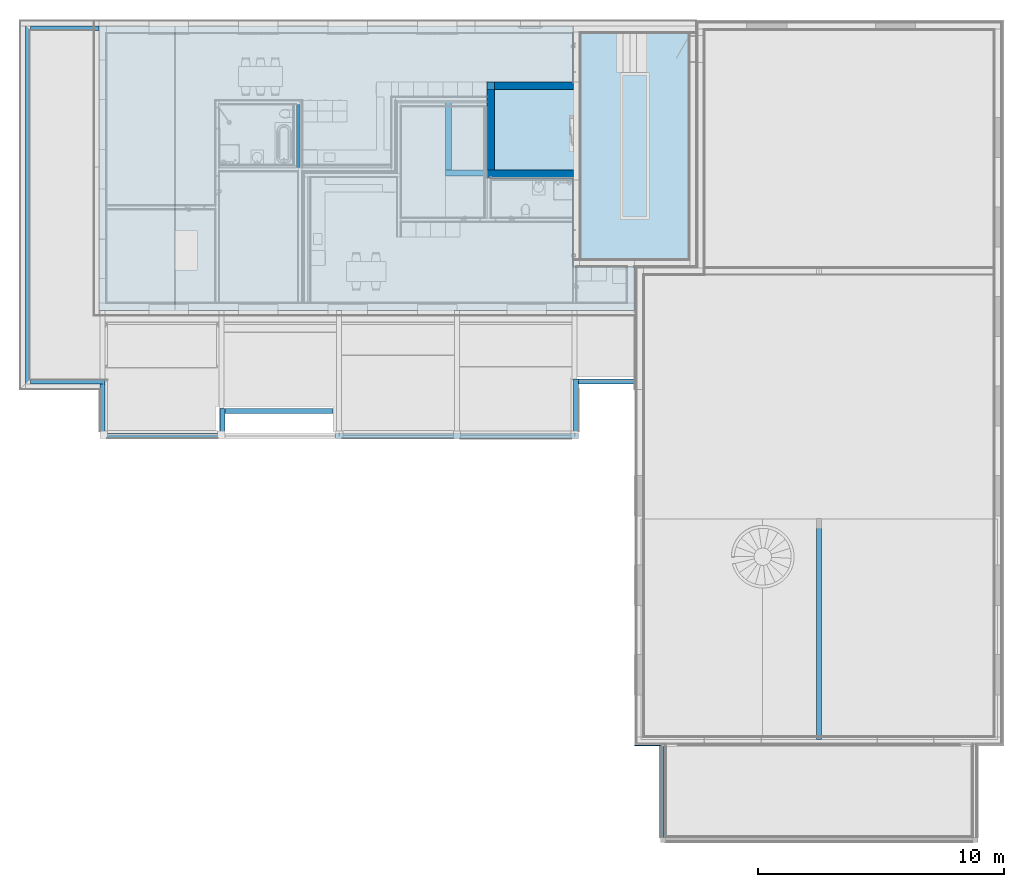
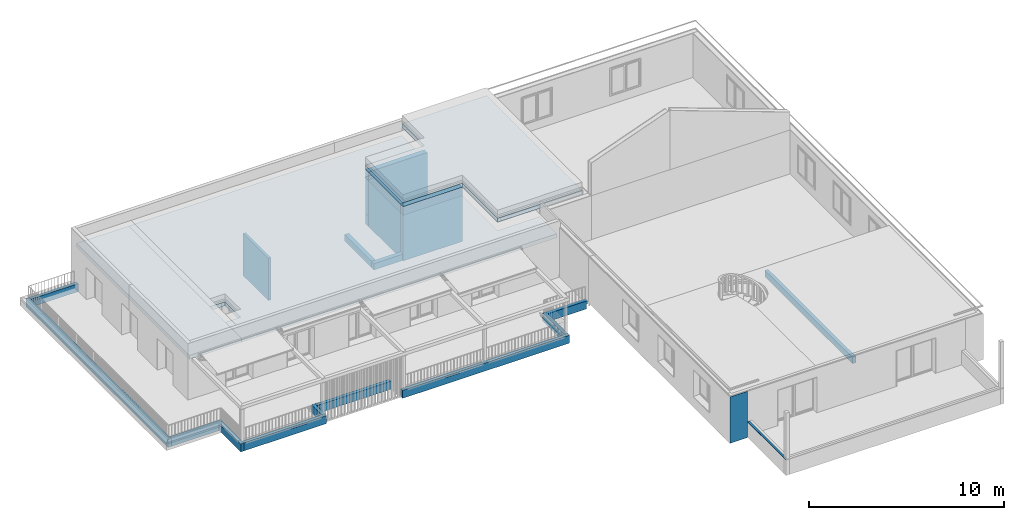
# One storey, part 2 of 36: 17 walls, 3 roofs, 2 building element parts, 1 beam, 2 elements without a shape of their own.
"""IFC4 building model written with IfcOpenShell, lengths in millimetres."""

from ifc_helpers import new_model, entity, si_unit, converted_unit, derived_unit, direction, frame, origin_with_axes, place, context, subcontext, project, spatial, polygons, material, constituent, constituent_set, type_object, element, aggregate, save


model = new_model("IFC4")

# Units and contexts
model_context = context("Model", 3, precision=0.01, world=origin_with_axes(), true_north=direction((0.0, 1.0)))
body_context = subcontext(model_context, "Body", "Model", "MODEL_VIEW")
ifc_project = project(units=[si_unit("LENGTHUNIT", "METRE", prefix="MILLI"), si_unit("AREAUNIT", "SQUARE_METRE"), si_unit("VOLUMEUNIT", "CUBIC_METRE"), converted_unit("PLANEANGLEUNIT", "DEGREE", entity("IfcPlaneAngleMeasure", 0.0174532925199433), si_unit("PLANEANGLEUNIT", "RADIAN"), dimensions=[0, 0, 0, 0, 0, 0, 0]), converted_unit("TIMEUNIT", "Year", entity("IfcTimeMeasure", 31557600.0), si_unit("TIMEUNIT", "SECOND"), dimensions=[0, 0, 1, 0, 0, 0, 0]), si_unit("MASSUNIT", "GRAM", prefix="KILO"), si_unit("THERMODYNAMICTEMPERATUREUNIT", "DEGREE_CELSIUS"), si_unit("LUMINOUSINTENSITYUNIT", "LUMEN"), si_unit("ENERGYUNIT", "JOULE", prefix="MEGA"), derived_unit("THERMALCONDUCTANCEUNIT", [(si_unit("POWERUNIT", "WATT"), 1), (si_unit("LENGTHUNIT", "METRE"), -1), (si_unit("THERMODYNAMICTEMPERATUREUNIT", "KELVIN"), -1)]), derived_unit("SPECIFICHEATCAPACITYUNIT", [(si_unit("ENERGYUNIT", "JOULE"), 1), (si_unit("MASSUNIT", "GRAM", prefix="KILO"), -1), (si_unit("THERMODYNAMICTEMPERATUREUNIT", "KELVIN"), -1)]), derived_unit("MASSDENSITYUNIT", [(si_unit("MASSUNIT", "GRAM", prefix="KILO"), 1), (si_unit("VOLUMEUNIT", "CUBIC_METRE"), -1)])], contexts=[model_context])

# Site, building, storey
site_placement = place(None, origin_with_axes())
site = spatial("IfcSite", under=ifc_project, at=site_placement, Name="Gelände", CompositionType="ELEMENT")
building_placement = place(site_placement, origin_with_axes())
building = spatial("IfcBuilding", under=site, at=building_placement, Name="Gebäude", CompositionType="ELEMENT")
storey_placement = place(building_placement, frame((0.0, 0.0, 8700.0), z_axis=(0.0, 0.0, 1.0), x_axis=(1.0, 0.0, 0.0)))
storey = spatial("IfcBuildingStorey", under=building, at=storey_placement, Name="Attika", CompositionType="ELEMENT", Elevation=8700.0)

# Beam
ifc_material_1 = material(Name="Massivholz")
beam_type = type_object("IfcBeamType", Name="Massivholz 200 x 400", PredefinedType="NOTDEFINED")
beam_placement = place(storey_placement, frame((25428.99744456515, 17689.67011252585, 3143.999896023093), z_axis=(0.0, 0.0, 1.0), x_axis=(-1.0, 0.0, 0.0)))
element("IfcBeam", 1, at=beam_placement, inside=storey, type_object=beam_type, material=ifc_material_1, Name="Unterzug-027", PredefinedType="NOTDEFINED", context=body_context, shape_type="Tessellation", body=[
    polygons([(100.0000000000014, 0.0, -400.0000000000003), (-100.0000000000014, 0.0, -400.0000000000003), (-100.0000000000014, 8993.072831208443, -400.0000000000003), (99.99999999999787, 8993.072831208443, -400.0000000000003), (100.0000000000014, 0.0, 0.0), (-100.0000000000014, 0.0, 0.0), (-100.0000000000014, 8993.072831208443, 0.0), (99.99999999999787, 8993.072831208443, 0.0)], [[[1, 2, 3, 4]], [[5, 6, 2, 1]], [[2, 6, 7, 3]], [[8, 4, 3, 7]], [[5, 1, 4, 8]], [[6, 5, 8, 7]]], closed=True),
])

# Walls
ifc_material_2 = material(Name="MW, Backstein, Sichtmauerwerk")
ifc_constituent_1 = constituent(ifc_material_2, Name="MW, Backstein, Sichtmauerwerk")
ifc_constituent_set_1 = constituent_set(constituents=[ifc_constituent_1], Name="Innenwand Typ 02")
wall_type_1 = type_object("IfcWallType", Name="Innenwand Typ 02 150", PredefinedType="NOTDEFINED")
wall_1_placement = place(storey_placement, frame((4165.773549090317, 34704.06370406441, 0.0), z_axis=(0.0, 0.0, 1.0), x_axis=(0.0, -1.0, 0.0)))
element("IfcWall", 2, at=wall_1_placement, inside=storey, type_object=wall_type_1, material=ifc_constituent_set_1, Name="Wand-015", PredefinedType="NOTDEFINED", context=body_context, shape_type="Tessellation", body=[
    polygons([(2741.466422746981, 150.0000000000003, 0.0), (2741.466422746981, 0.0, 0.0), (159.9999999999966, 0.0, 0.0), (159.9999999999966, 150.0000000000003, 0.0), (2741.466422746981, 150.0000000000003, 2649.999948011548), (2741.466422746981, 0.0, 2649.999948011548), (159.9999999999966, 0.0, 2649.999948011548), (159.9999999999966, 150.0000000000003, 2649.999948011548)], [[[1, 2, 3, 4]], [[2, 1, 5, 6]], [[2, 6, 7, 3]], [[8, 4, 3, 7]], [[5, 1, 4, 8]], [[6, 5, 8, 7]]], closed=True),
])
ifc_material_3 = material(Name="Beton bewehrt")
ifc_constituent_2 = constituent(ifc_material_3, Name="Beton bewehrt")
ifc_constituent_set_2 = constituent_set(constituents=[ifc_constituent_2], Name="Innenwand Typ 08")
wall_type_2 = type_object("IfcWallType", Name="Innenwand Typ 08 300", PredefinedType="NOTDEFINED")
wall_2_placement = place(storey_placement, frame((12228.99744477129, 35447.59728131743, -5.198845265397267e-05), z_axis=(0.0, 0.0, 1.0), x_axis=(0.0, -1.0, 0.0)))
element("IfcWall", 3, at=wall_2_placement, inside=storey, type_object=wall_type_2, material=ifc_constituent_set_2, Name="Wand-014", PredefinedType="NOTDEFINED", context=body_context, shape_type="Tessellation", body=[
    polygons([(299.9999999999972, 0.0, 0.0), (3574.999999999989, 0.0, 0.0), (3574.999999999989, -300.0000000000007, 0.0), (299.9999999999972, -300.0000000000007, 0.0), (299.9999999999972, 0.0, 3400.000051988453), (3574.999999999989, 0.0, 3400.000051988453), (3574.999999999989, -300.0000000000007, 3400.000051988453), (299.9999999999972, -299.9999999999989, 3400.000051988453)], [[[1, 2, 3, 4]], [[5, 6, 2, 1]], [[3, 2, 6, 7]], [[4, 3, 7, 8]], [[5, 1, 4, 8]], [[8, 7, 6, 5]]], closed=True),
])
ifc_constituent_3 = constituent(ifc_material_3, Name="Beton bewehrt")
ifc_constituent_set_3 = constituent_set(constituents=[ifc_constituent_3], Name="Innenwand Typ 08")
wall_3_placement = place(storey_placement, frame((11928.99744477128, 35447.59728131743, 0.0), z_axis=(0.0, 0.0, 1.0), x_axis=(1.0, 0.0, 0.0)))
element("IfcWall", 4, at=wall_3_placement, inside=storey, type_object=wall_type_2, material=ifc_constituent_set_3, Name="Wand-014", PredefinedType="NOTDEFINED", context=body_context, shape_type="Tessellation", body=[
    polygons([(0.0, 0.0, 0.0), (0.0, 0.0, 649.9999999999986), (300.0000000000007, 0.0, 649.9999999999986), (300.0000000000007, 0.0, 3400.0), (3500.0, 0.0, 3400.000000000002), (3500.0, 0.0, 0.0), (0.0, -299.9999999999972, 0.0), (0.0, -299.9999999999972, 649.9999999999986), (300.0000000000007, -299.9999999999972, 649.9999999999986), (300.0000000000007, -299.9999999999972, 3400.0), (3500.0, -299.9999999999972, 3400.000000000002), (3500.0, -299.9999999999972, 0.0)], [[[1, 2, 3, 4, 5, 6]], [[7, 8, 2, 1]], [[9, 3, 2, 8]], [[9, 10, 4, 3]], [[5, 4, 10, 11]], [[12, 6, 5, 11]], [[6, 12, 7, 1]], [[10, 9, 8, 7, 12, 11]]], closed=True),
])
ifc_constituent_4 = constituent(ifc_material_3, Name="Beton bewehrt")
ifc_constituent_set_4 = constituent_set(constituents=[ifc_constituent_4], Name="Innenwand Typ 08")
wall_4_placement = place(storey_placement, frame((11928.99744477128, 31572.59728131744, -5.198845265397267e-05), z_axis=(0.0, 0.0, 1.0), x_axis=(1.0, 0.0, 0.0)))
element("IfcWall", 5, at=wall_4_placement, inside=storey, type_object=wall_type_2, material=ifc_constituent_set_4, Name="Wand-014", PredefinedType="NOTDEFINED", context=body_context, shape_type="Tessellation", body=[
    polygons([(3500.0, 300.0000000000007, 3400.000051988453), (3500.0, 300.0000000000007, 0.0), (0.0, 300.0000000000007, 0.0), (0.0, 300.0000000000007, 3400.000051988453), (3500.0, 0.0, 3400.000051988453), (3500.0, 0.0, 0.0), (0.0, 0.0, 0.0), (0.0, 0.0, 3400.000051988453)], [[[1, 2, 3, 4]], [[1, 5, 6, 2]], [[2, 6, 7, 3]], [[7, 8, 4, 3]], [[5, 1, 4, 8]], [[5, 8, 7, 6]]], closed=True),
])
ifc_constituent_5 = constituent(ifc_material_3, Name="Beton bewehrt")
ifc_constituent_set_5 = constituent_set(constituents=[ifc_constituent_5], Name="Innenwand Typ 08")
wall_5_placement = place(storey_placement, frame((11928.99744477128, 35447.59728131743, 649.9999999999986), z_axis=(0.0, 0.0, 1.0), x_axis=(0.0, -1.0, 0.0)))
element("IfcWall", 6, at=wall_5_placement, inside=storey, type_object=wall_type_2, material=ifc_constituent_set_5, Name="Wand-014", PredefinedType="NOTDEFINED", context=body_context, shape_type="Tessellation", body=[
    polygons([(3574.999999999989, 299.9999999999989, 2750.000000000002), (3574.999999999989, 0.0, 2750.000000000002), (3574.999999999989, 0.0, 0.0), (3574.999999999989, 299.9999999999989, 0.0), (0.0, 0.0, 2750.000000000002), (0.0, 300.0000000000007, 2750.000000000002), (0.0, 0.0, 0.0), (0.0, 300.0000000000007, 0.0)], [[[1, 2, 3, 4]], [[5, 2, 1, 6]], [[7, 3, 2, 5]], [[8, 4, 3, 7]], [[1, 4, 8, 6]], [[8, 7, 5, 6]]], closed=True),
])
ifc_constituent_6 = constituent(ifc_material_3, Name="Beton bewehrt")
ifc_constituent_set_6 = constituent_set(constituents=[ifc_constituent_6], Name="Aussenwand Typ 07 - Brüstung")
wall_type_3 = type_object("IfcWallType", Name="Aussenwand Typ 07 - Brüstung 200", PredefinedType="NOTDEFINED")
wall_6_placement = place(storey_placement, frame((-6861.004181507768, 37737.5972813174, 0.0), z_axis=(0.0, 0.0, 1.0), x_axis=(0.0, -1.0, 0.0)))
element("IfcWall", 7, at=wall_6_placement, inside=storey, type_object=wall_type_3, material=ifc_constituent_set_6, Name="Wand-014", PredefinedType="NOTDEFINED", context=body_context, shape_type="Tessellation", body=[
    polygons([(187.7000840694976, 187.7000840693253, 500.0), (14392.30045643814, 187.7000840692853, 500.0), (14392.3004934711, 200.0000000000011, 500.0), (187.7000470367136, 200.0000000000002, 500.0), (187.6999606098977, 187.6999606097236, 402.526755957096), (14392.30057989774, 187.6999606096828, 402.526755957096), (14392.30057989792, 200.0000000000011, 402.526755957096), (14395.00062668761, 200.0000000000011, 402.526755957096), (14395.00054026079, 200.0000000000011, 499.9999994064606), (14580.00054054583, 200.0000000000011, 500.0), (14580.00054054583, 200.0000000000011, 0.0), (0.0, 200.0000000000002, 0.0), (0.0, 200.0000000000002, 500.0), (185.0000002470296, 200.0000000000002, 499.9999994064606), (184.9999138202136, 200.0000000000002, 402.526755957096), (187.6999606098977, 200.0000000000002, 402.526755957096), (184.9999138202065, 184.9999138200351, 402.526755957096), (14395.00062668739, 184.9999138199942, 402.526755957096), (14395.00054026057, 185.000000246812, 499.9999994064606), (185.0000002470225, 185.0000002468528, 499.9999994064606), (0.0, 0.0, 500.0), (14580.00054054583, 0.0, 500.0), (14580.00054054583, 0.0, 0.0), (0.0, 0.0, 0.0)], [[[1, 2, 3, 4]], [[5, 6, 2, 1]], [[6, 7, 3, 2]], [[7, 8, 9, 10, 11, 12, 13, 14, 15, 16, 4, 3]], [[16, 5, 1, 4]], [[17, 18, 8, 7, 6, 5, 16, 15]], [[19, 9, 8, 18]], [[10, 9, 19, 20, 14, 13, 21, 22]], [[22, 23, 11, 10]], [[12, 11, 23, 24]], [[21, 13, 12, 24]], [[14, 20, 17, 15]], [[20, 19, 18, 17]], [[24, 23, 22, 21]]], closed=True),
])
ifc_constituent_7 = constituent(ifc_material_3, Name="Beton bewehrt")
ifc_constituent_set_7 = constituent_set(constituents=[ifc_constituent_7], Name="Aussenwand Typ 07 - Brüstung")
wall_7_placement = place(storey_placement, frame((-6861.004181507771, 23157.59674077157, 0.0), z_axis=(0.0, 0.0, 1.0), x_axis=(1.0, 0.0, 0.0)))
element("IfcWall", 8, at=wall_7_placement, inside=storey, type_object=wall_type_3, material=ifc_constituent_set_7, Name="Wand-014", PredefinedType="NOTDEFINED", context=body_context, shape_type="Tessellation", body=[
    polygons([(200.0000000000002, 0.0, 500.0), (3205.170084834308, 0.0, 499.9999987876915), (3235.800000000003, 39.37021460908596, 499.9999987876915), (3235.800000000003, 185.0000002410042, 499.9999994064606), (200.0000000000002, 185.0000002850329, 499.9999994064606), (3235.800000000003, 0.0, 497.4732441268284), (3205.170084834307, 0.0, 497.4732436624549), (200.0000000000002, 0.0, 0.0), (3235.800000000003, 0.0, 0.0), (3235.800000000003, 39.37021460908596, 497.4732441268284), (3235.800000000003, 199.9999999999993, 0.0), (3235.800000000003, 199.9999999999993, 500.0), (3235.800000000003, 187.7000470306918, 500.0), (3235.800000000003, 187.6999606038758, 402.526755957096), (3235.800000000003, 184.9999138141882, 402.526755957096), (200.0000000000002, 184.999913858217, 402.526755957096), (200.0000000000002, 187.6999606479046, 402.526755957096), (200.0000000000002, 187.7000470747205, 500.0), (200.0000000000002, 199.9999999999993, 500.0), (200.0000000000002, 199.9999999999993, 0.0)], [[[1, 2, 3, 4, 5]], [[6, 7, 2, 1, 8, 9]], [[7, 10, 3, 2]], [[3, 10, 6, 9, 11, 12, 13, 14, 15, 4]], [[5, 4, 15, 16]], [[16, 17, 18, 19, 20, 8, 1, 5]], [[7, 6, 10]], [[20, 11, 9, 8]], [[19, 12, 11, 20]], [[19, 18, 13, 12]], [[17, 14, 13, 18]], [[16, 15, 14, 17]]], closed=True),
])
ifc_constituent_8 = constituent(ifc_material_3, Name="Beton bewehrt")
ifc_constituent_set_8 = constituent_set(constituents=[ifc_constituent_8], Name="Aussenwand Typ 07 - Brüstung")
wall_8_placement = place(storey_placement, frame((15637.99581849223, 23157.59674077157, 0.0), z_axis=(0.0, 0.0, 1.0), x_axis=(1.0, 0.0, 0.0)))
element("IfcWall", 9, at=wall_8_placement, inside=storey, type_object=wall_type_3, material=ifc_constituent_set_8, Name="Wand-015", PredefinedType="NOTDEFINED", context=body_context, shape_type="Tessellation", body=[
    polygons([(2362.001626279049, 199.9999999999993, 500.0), (2362.001626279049, 0.0, 500.0), (2362.001626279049, 0.0, 300.0000000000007), (2362.001626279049, 199.9999999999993, 300.0000000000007), (0.0, 199.9999999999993, 500.0), (0.0, 0.0, 500.0), (0.0, 0.0, 0.0), (2291.001626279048, 0.0, 0.0), (2291.001626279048, 0.0, 300.0000000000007), (2291.001626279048, 199.9999999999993, 300.0000000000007), (2291.001626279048, 199.9999999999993, 0.0), (0.0, 199.9999999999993, 0.0)], [[[1, 2, 3, 4]], [[5, 6, 2, 1]], [[7, 8, 9, 3, 2, 6]], [[3, 9, 10, 4]], [[1, 4, 10, 11, 12, 5]], [[6, 5, 12, 7]], [[7, 12, 11, 8]], [[9, 8, 11, 10]]], closed=True),
])
ifc_constituent_9 = constituent(ifc_material_3, Name="Beton bewehrt")
ifc_constituent_set_9 = constituent_set(constituents=[ifc_constituent_9], Name="Aussenwand Typ 07 - Brüstung")
wall_9_placement = place(storey_placement, frame((5756.395818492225, 20947.59674077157, 0.0), z_axis=(0.0, 0.0, 1.0), x_axis=(1.0, 0.0, 0.0)))
element("IfcWall", 10, at=wall_9_placement, inside=storey, type_object=wall_type_3, material=ifc_constituent_set_9, Name="Wand-014", PredefinedType="NOTDEFINED", context=body_context, shape_type="Tessellation", body=[
    polygons([(300.0000000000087, 199.9999999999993, 499.9999987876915), (300.0000000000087, 199.9999999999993, 497.4732441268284), (4790.800000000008, 199.9999999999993, 497.4732441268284), (4790.800000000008, 199.9999999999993, 499.9999987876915), (9881.600000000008, 199.9999999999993, 500.0), (9881.600000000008, 199.9999999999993, 0.0), (0.0, 199.9999999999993, 0.0), (0.0, 199.9999999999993, 500.0), (300.000000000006, 2.700173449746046, 400.0000000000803), (300.000000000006, 2.700087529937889, 497.4732411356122), (300.000000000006, 0.0, 500.0), (300.000000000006, 0.0001266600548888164, 400.0000000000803), (4790.800000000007, 2.70008752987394, 497.4732411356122), (4790.800000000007, 0.0, 500.0), (4790.800000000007, 2.700173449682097, 400.0000000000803), (4790.800000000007, 0.0001266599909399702, 400.0000000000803), (9881.600000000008, 0.0, 500.0), (9881.600000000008, 0.0, 0.0), (0.0, 0.0, 0.0), (0.0, 0.0, 500.0)], [[[1, 2, 3, 4, 5, 6, 7, 8]], [[9, 10, 2, 1, 11, 12]], [[13, 3, 2, 10]], [[14, 4, 3, 13, 15, 16]], [[5, 4, 14, 17]], [[17, 18, 6, 5]], [[7, 6, 18, 19]], [[20, 8, 7, 19]], [[11, 1, 8, 20]], [[15, 13, 10, 9]], [[16, 12, 11, 20, 19, 18, 17, 14]], [[9, 12, 16, 15]]], closed=True),
])
ifc_constituent_10 = constituent(ifc_material_3, Name="Beton bewehrt")
ifc_constituent_set_10 = constituent_set(constituents=[ifc_constituent_10], Name="Aussenwand Typ 07 - Brüstung")
wall_10_placement = place(storey_placement, frame((15637.99581849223, 20947.59674077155, 0.0), z_axis=(0.0, 0.0, 1.0), x_axis=(0.0, 1.0, 0.0)))
element("IfcWall", 11, at=wall_10_placement, inside=storey, type_object=wall_type_3, material=ifc_constituent_set_10, Name="Wand-015", PredefinedType="NOTDEFINED", context=body_context, shape_type="Tessellation", body=[
    polygons([(200.0000000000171, 199.9999999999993, 0.0), (2410.000000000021, 199.9999999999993, 0.0), (2410.000000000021, 0.0, 0.0), (200.0000000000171, 0.0, 0.0), (200.0000000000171, 199.9999999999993, 500.0), (2410.000000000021, 199.9999999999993, 500.0), (2410.000000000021, 0.0, 500.0), (200.0000000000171, 0.0, 500.0)], [[[1, 2, 3, 4]], [[5, 6, 2, 1]], [[7, 3, 2, 6]], [[4, 3, 7, 8]], [[8, 5, 1, 4]], [[8, 7, 6, 5]]], closed=True),
])
ifc_constituent_11 = constituent(ifc_material_3, Name="Beton bewehrt")
ifc_constituent_set_11 = constituent_set(constituents=[ifc_constituent_11], Name="Aussenwand Typ 07 - Brüstung")
wall_11_placement = place(storey_placement, frame((1265.595818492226, 20947.59674077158, 0.0), z_axis=(0.0, 0.0, 1.0), x_axis=(0.0, 1.0, 0.0)))
element("IfcWall", 12, at=wall_11_placement, inside=storey, type_object=wall_type_3, material=ifc_constituent_set_11, Name="Wand-014", PredefinedType="NOTDEFINED", context=body_context, shape_type="Tessellation", body=[
    polygons([(1209.999998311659, 199.9999999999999, 0.0), (1209.999998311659, 0.0, 0.0), (199.9999999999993, 0.0, 0.0), (199.9999999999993, 199.9999999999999, 0.0), (1209.999998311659, 199.9999999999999, 500.0), (1209.999998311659, 0.0, 500.0), (199.9999999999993, 0.0, 500.0), (199.9999999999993, 199.9999999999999, 500.0)], [[[1, 2, 3, 4]], [[2, 1, 5, 6]], [[2, 6, 7, 3]], [[8, 4, 3, 7]], [[5, 1, 4, 8]], [[6, 5, 8, 7]]], closed=True),
])
ifc_constituent_12 = constituent(ifc_material_3, Name="Beton bewehrt")
ifc_constituent_set_12 = constituent_set(constituents=[ifc_constituent_12], Name="Aussenwand Typ 07 - Brüstung")
wall_12_placement = place(storey_placement, frame((1265.595818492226, 20947.59674077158, 0.0), z_axis=(0.0, 0.0, 1.0), x_axis=(-1.0, 0.0, 0.0)))
element("IfcWall", 13, at=wall_12_placement, inside=storey, type_object=wall_type_3, material=ifc_constituent_set_12, Name="Wand-014", PredefinedType="NOTDEFINED", context=body_context, shape_type="Tessellation", body=[
    polygons([(4790.799999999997, -199.9999999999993, 499.9999987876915), (4790.799999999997, -199.9999999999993, 497.4732441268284), (299.9999999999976, -199.9999999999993, 497.4732441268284), (299.9999999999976, -199.9999999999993, 499.9999987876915), (0.0, -199.9999999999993, 500.0), (0.0, -199.9999999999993, 0.0), (4890.799999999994, -199.9999999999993, 0.0), (4890.799999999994, -199.9999999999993, 500.0), (4790.800000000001, -2.700173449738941, 400.0000000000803), (4790.800000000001, -2.700087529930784, 497.4732411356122), (4790.800000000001, 0.0, 500.0), (4790.800000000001, -0.000126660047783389, 400.0000000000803), (300.0000000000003, -2.700087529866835, 497.4732411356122), (300.0000000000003, 0.0, 500.0), (300.0000000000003, -2.700173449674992, 400.0000000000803), (300.0000000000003, -0.0001266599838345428, 400.0000000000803), (0.0, 0.0, 500.0), (0.0, 0.0, 0.0), (4890.799999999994, 0.0, 0.0), (4890.799999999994, 0.0, 500.0)], [[[1, 2, 3, 4, 5, 6, 7, 8]], [[9, 10, 2, 1, 11, 12]], [[13, 3, 2, 10]], [[14, 4, 3, 13, 15, 16]], [[5, 4, 14, 17]], [[18, 6, 5, 17]], [[18, 19, 7, 6]], [[19, 20, 8, 7]], [[11, 1, 8, 20]], [[15, 13, 10, 9]], [[16, 12, 11, 20, 19, 18, 17, 14]], [[9, 12, 16, 15]]], closed=True),
])
ifc_constituent_13 = constituent(ifc_material_3, Name="Beton bewehrt")
ifc_constituent_set_13 = constituent_set(constituents=[ifc_constituent_13], Name="Aussenwand Typ 07 - Brüstung")
wall_13_placement = place(storey_placement, frame((-3825.204181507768, 23157.59674076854, 0.0), z_axis=(0.0, 0.0, 1.0), x_axis=(0.0, -1.0, 0.0)))
element("IfcWall", 14, at=wall_13_placement, inside=storey, type_object=wall_type_3, material=ifc_constituent_set_13, Name="Wand-014", PredefinedType="NOTDEFINED", context=body_context, shape_type="Tessellation", body=[
    polygons([(-3.030464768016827e-09, 0.0, 500.0), (-3.030464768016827e-09, 169.3700848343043, 499.9999987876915), (-3.030464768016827e-09, 169.3700848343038, 497.4732436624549), (-3.030464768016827e-09, 200.0000000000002, 497.4732441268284), (-3.030464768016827e-09, 200.0000000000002, 0.0), (-3.030464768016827e-09, 0.0, 0.0), (215.0000015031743, 2.100694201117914, 500.0), (215.0000015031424, 0.0, 500.0000015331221), (214.2294598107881, 2.700173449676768, 400.0000000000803), (214.2295702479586, 2.700087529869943, 497.4732411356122), (215.0000860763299, 2.10062840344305, 402.526755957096), (217.6999737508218, 0.0001234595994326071, 402.5267559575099), (217.6999696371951, 0.0001266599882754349, 400.0000000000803), (1909.99999999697, 2.700087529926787, 497.4732411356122), (1909.999999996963, 199.9999999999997, 497.4732441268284), (1909.999999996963, 199.9999999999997, 499.9999987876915), (2209.999999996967, 199.9999999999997, 500.0), (2209.999999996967, 199.9999999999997, 0.0), (2209.999999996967, 0.0, 0.0), (1909.99999999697, 0.0001266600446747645, 400.0000000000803), (215.0000860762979, 0.0, 402.526755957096), (2209.999999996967, 0.0, 500.0), (1909.99999999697, 0.0, 500.0), (1909.99999999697, 2.700173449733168, 400.0000000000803)], [[[1, 2, 3, 4, 5, 6]], [[7, 2, 1, 8]], [[9, 10, 3, 2, 7, 11, 12, 13]], [[14, 15, 4, 3, 10]], [[4, 15, 16, 17, 18, 5]], [[5, 18, 19, 6]], [[20, 13, 12, 21, 8, 1, 6, 19, 22, 23]], [[21, 11, 7, 8]], [[24, 14, 10, 9]], [[21, 12, 11]], [[9, 13, 20, 24]], [[23, 16, 15, 14, 24, 20]], [[17, 16, 23, 22]], [[22, 19, 18, 17]]], closed=True),
])
ifc_constituent_14 = constituent(ifc_material_3, Name="Beton bewehrt")
ifc_constituent_set_14 = constituent_set(constituents=[ifc_constituent_14], Name="Aussenwand Typ 07 - Brüstung")
wall_14_placement = place(storey_placement, frame((-6861.004181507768, 37737.5972813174, 0.0), z_axis=(0.0, 0.0, 1.0), x_axis=(1.0, 0.0, 0.0)))
element("IfcWall", 15, at=wall_14_placement, inside=storey, type_object=wall_type_3, material=ifc_constituent_set_14, Name="Wand-014", PredefinedType="NOTDEFINED", context=body_context, shape_type="Tessellation", body=[
    polygons([(2790.0, -185.0000002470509, 499.9999994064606), (2790.0, -187.700084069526, 500.0), (200.0000000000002, -187.7000470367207, 500.0), (200.0000000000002, -200.0000000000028, 500.0), (3000.000000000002, -200.0000000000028, 500.0), (3000.000000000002, 0.0, 500.0), (200.0000000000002, 0.0, 500.0), (200.0000000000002, -185.0000002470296, 499.9999994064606), (2790.0, -187.6999606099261, 402.526755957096), (2790.0, -184.999913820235, 402.526755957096), (200.0000000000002, -187.6999606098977, 402.526755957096), (200.0000000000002, -184.9999138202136, 402.526755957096), (200.0000000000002, 0.0, 0.0), (200.0000000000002, -200.0000000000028, 0.0), (3000.000000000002, -200.0000000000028, 0.0), (3000.000000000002, 0.0, 0.0)], [[[1, 2, 3, 4, 5, 6, 7, 8]], [[9, 2, 1, 10]], [[11, 3, 2, 9]], [[11, 12, 8, 7, 13, 14, 4, 3]], [[14, 15, 5, 4]], [[16, 6, 5, 15]], [[7, 6, 16, 13]], [[1, 8, 12, 10]], [[10, 12, 11, 9]], [[13, 16, 15, 14]]], closed=True),
])
ifc_constituent_15 = constituent(ifc_material_3, Name="Beton bewehrt")
ifc_constituent_set_15 = constituent_set(constituents=[ifc_constituent_15], Name="Aussenwand Typ 07 - Brüstung")
wall_15_placement = place(storey_placement, frame((1265.595818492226, 21957.59673908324, 0.0), z_axis=(0.0, 0.0, 1.0), x_axis=(1.0, 0.0, 0.0)))
element("IfcWall", 16, at=wall_15_placement, inside=storey, type_object=wall_type_3, material=ifc_constituent_set_15, Name="Wand-014", PredefinedType="NOTDEFINED", context=body_context, shape_type="Tessellation", body=[
    polygons([(0.0, 199.9999999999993, 0.0), (4390.799999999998, 199.9999999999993, 0.0), (4390.799999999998, 0.0, 0.0), (0.0, 0.0, 0.0), (0.0, 199.9999999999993, 500.0), (4390.799999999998, 199.9999999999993, 500.0), (4390.799999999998, 0.0, 500.0), (0.0, 0.0, 500.0)], [[[1, 2, 3, 4]], [[5, 6, 2, 1]], [[3, 2, 6, 7]], [[4, 3, 7, 8]], [[5, 1, 4, 8]], [[8, 7, 6, 5]]], closed=True),
])
ifc_constituent_16 = constituent(ifc_material_3, Name="Beton bewehrt")
ifc_constituent_set_16 = constituent_set(constituents=[ifc_constituent_16], Name="Innenwand Typ 11")
wall_type_4 = type_object("IfcWallType", Name="Innenwand Typ 11 250", PredefinedType="NOTDEFINED")
wall_16_placement = place(storey_placement, frame((10478.99744477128, 31872.59728131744, -5.198845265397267e-05), z_axis=(0.0, 0.0, 1.0), x_axis=(0.0, 1.0, 0.0)))
element("IfcWall", 17, at=wall_16_placement, inside=storey, type_object=wall_type_4, material=ifc_constituent_set_16, Name="Wand-015", PredefinedType="NOTDEFINED", context=body_context, shape_type="Tessellation", body=[
    polygons([(2774.999999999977, 0.0, 400.0000519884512), (2774.999999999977, 250.0, 400.0000519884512), (0.0, 250.0, 400.0000519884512), (0.0, 0.0, 400.0000519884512), (2774.999999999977, 0.0, 0.0), (2774.999999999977, 250.0, 0.0), (0.0, 250.0, 0.0), (0.0, 0.0, 0.0)], [[[1, 2, 3, 4]], [[2, 1, 5, 6]], [[2, 6, 7, 3]], [[8, 4, 3, 7]], [[5, 1, 4, 8]], [[6, 5, 8, 7]]], closed=True),
])
ifc_constituent_17 = constituent(ifc_material_3, Name="Beton bewehrt")
ifc_constituent_set_17 = constituent_set(constituents=[ifc_constituent_17], Name="Innenwand Typ 11")
wall_17_placement = place(storey_placement, frame((11928.99744477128, 31872.59728131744, -5.198845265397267e-05), z_axis=(0.0, 0.0, 1.0), x_axis=(-1.0, 0.0, 0.0)))
element("IfcWall", 18, at=wall_17_placement, inside=storey, type_object=wall_type_4, material=ifc_constituent_set_17, Name="Wand-014", PredefinedType="NOTDEFINED", context=body_context, shape_type="Tessellation", body=[
    polygons([(1700.000000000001, 0.0, 400.0000519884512), (1700.000000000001, 250.0, 400.0000519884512), (0.0, 250.0, 400.0000519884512), (0.0, 0.0, 400.0000519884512), (1700.000000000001, 0.0, 0.0), (1700.000000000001, 250.0, 0.0), (0.0, 250.0, 0.0), (0.0, 0.0, 0.0)], [[[1, 2, 3, 4]], [[2, 1, 5, 6]], [[2, 6, 7, 3]], [[8, 4, 3, 7]], [[5, 1, 4, 8]], [[6, 5, 8, 7]]], closed=True),
])

# Roofs
ifc_constituent_18 = constituent(ifc_material_3, Name="Beton bewehrt")
ifc_constituent_set_18 = constituent_set(constituents=[ifc_constituent_18], Name="Flachdach Typ 01 - Beton ungedämmt")
roof_type = type_object("IfcRoofType", Name="Flachdach Typ 01 - Beton ungedämmt 250", PredefinedType="NOTDEFINED")
roof_1_placement = place(storey_placement, frame((-770.3482138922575, 26157.59674077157, 2899.999948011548), z_axis=(0.0, 0.0, 1.0), x_axis=(1.0, 0.0, 0.0)))
element("IfcRoof", 19, at=roof_1_placement, inside=storey, type_object=roof_type, material=ifc_constituent_set_18, Name="Deckennr.-073", PredefinedType="NOTDEFINED", context=body_context, shape_type="Tessellation", body=[
    polygons([(18690.34565866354, 1770.000540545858, 0.0), (16179.34565866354, 1770.000540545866, 0.0), (16179.34565866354, 5395.000540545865, 0.0), (12679.34565866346, 5395.000540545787, 0.0), (12679.34565866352, 9310.000540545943, 0.0), (16179.34565866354, 9310.000540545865, 0.0), (16179.34565866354, 11580.00054054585, 0.0), (0.0, 11580.0005157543, 0.0), (0.0, 3242.816803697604, 0.0), (900.0001006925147, 3242.816803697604, 0.0), (900.0001006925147, 1642.816624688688, 0.0), (0.0, 1642.816624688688, 0.0), (0.0, 0.0, 0.0), (18690.34565866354, 0.0, 0.0), (18690.34565866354, 1770.000540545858, -250.0), (16179.34565866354, 1770.000540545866, -250.0), (16179.34565866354, 5395.000540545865, -250.0), (12679.34565866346, 5395.000540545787, -250.0), (12679.34565866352, 9310.000540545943, -250.0), (16179.34565866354, 9310.000540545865, -250.0), (16179.34565866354, 11580.00054054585, -250.0), (0.0, 11580.0005157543, -250.0), (0.0, 3242.816803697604, -250.0), (900.0001006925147, 3242.816803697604, -250.0), (900.0001006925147, 1642.816624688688, -250.0), (0.0, 1642.816624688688, -250.0), (0.0, 0.0, -250.0), (18690.34565866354, 0.0, -250.0)], [[[1, 2, 3, 4, 5, 6, 7, 8, 9, 10, 11, 12, 13, 14]], [[15, 16, 2, 1]], [[16, 17, 3, 2]], [[4, 3, 17, 18]], [[5, 4, 18, 19]], [[19, 20, 6, 5]], [[20, 21, 7, 6]], [[8, 7, 21, 22]], [[23, 9, 8, 22]], [[24, 10, 9, 23]], [[25, 11, 10, 24]], [[26, 12, 11, 25]], [[27, 13, 12, 26]], [[28, 14, 13, 27]], [[28, 15, 1, 14]], [[18, 17, 16, 15, 28, 27, 26, 25, 24, 23, 22, 21, 20, 19]]], closed=True),
])
ifc_constituent_19 = constituent(ifc_material_3, Name="Beton bewehrt")
ifc_constituent_set_19 = constituent_set(constituents=[ifc_constituent_19], Name="Flachdach Typ 01 - Beton ungedämmt")
roof_2_placement = place(storey_placement, frame((-3861.004181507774, 26157.59674077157, 2899.999948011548), z_axis=(0.0, 0.0, 1.0), x_axis=(1.0, 0.0, 0.0)))
element("IfcRoof", 20, at=roof_2_placement, inside=storey, type_object=roof_type, material=ifc_constituent_set_19, Name="Deckennr.-073", PredefinedType="NOTDEFINED", context=body_context, shape_type="Tessellation", body=[
    polygons([(0.0, 0.0, 0.0), (0.0, 0.0, -250.0), (3090.655967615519, 0.0, -250.0), (3090.655967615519, 0.0, 0.0), (0.0, 11580.00054054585, 0.0), (0.0, 11580.00054054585, -250.0), (3090.655967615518, 11580.00054054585, -250.0), (3090.655967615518, 11580.00054054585, 0.0)], [[[1, 2, 3, 4]], [[5, 6, 2, 1]], [[3, 2, 6, 7]], [[4, 3, 7, 8]], [[5, 1, 4, 8]], [[8, 7, 6, 5]]], closed=True),
])
ifc_constituent_20 = constituent(ifc_material_3, Name="Beton bewehrt")
ifc_constituent_set_20 = constituent_set(constituents=[ifc_constituent_20], Name="Flachdach Typ 01 - Beton ungedämmt")
roof_3_placement = place(storey_placement, frame((15428.99744477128, 27947.59728131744, 3650.0), z_axis=(0.0, 0.0, 1.0), x_axis=(1.0, 0.0, 0.0)))
element("IfcRoof", 21, at=roof_3_placement, inside=storey, type_object=roof_type, material=ifc_constituent_set_20, Name="Deckennr.-073", PredefinedType="NOTDEFINED", context=body_context, shape_type="Tessellation", body=[
    polygons([(0.0, 0.0, 0.0), (0.0, 0.0, -250.0), (4999.999999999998, 0.0, -250.0), (4999.999999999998, 0.0, 0.0), (0.0, 3624.999999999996, 0.0), (0.0, 3624.999999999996, -250.0), (-3500.000000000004, 3624.999999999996, -250.0), (-3500.000000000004, 7499.999999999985, -250.0), (0.0, 7499.999999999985, -250.0), (0.0, 9789.999999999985, -250.0), (4999.999999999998, 9789.999999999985, -250.0), (4999.999999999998, 9789.999999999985, 0.0), (0.0, 9789.999999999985, 0.0), (0.0, 7499.999999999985, 0.0), (-3500.000000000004, 7499.999999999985, 0.0), (-3500.000000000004, 3624.999999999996, 0.0)], [[[1, 2, 3, 4]], [[5, 6, 2, 1]], [[3, 2, 6, 7, 8, 9, 10, 11]], [[4, 3, 11, 12]], [[5, 1, 4, 12, 13, 14, 15, 16]], [[16, 7, 6, 5]], [[15, 8, 7, 16]], [[14, 9, 8, 15]], [[13, 10, 9, 14]], [[12, 11, 10, 13]]], closed=True),
])

# Curtain wall, building element part
curtain_wall_type_1 = type_object("IfcCurtainWallType", Name="Fassade Typ 02 - Vertikale Schalung 71", PredefinedType="NOTDEFINED")
curtain_wall_1_placement = place(storey_placement, frame((18974.99747005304, 8447.597281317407, 500.0000000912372), z_axis=(0.0, 0.0, 1.0), x_axis=(-1.0, 0.0, 0.0)))
curtain_wall_1 = element("IfcCurtainWall", 22, at=curtain_wall_1_placement, inside=storey, type_object=curtain_wall_type_1, Name="Wand-014", PredefinedType="NOTDEFINED")
ifc_material_4 = material(Name="Falzschalung vertikal")
building_element_part_1_placement = place(curtain_wall_1_placement, origin_with_axes())
building_element_part_1 = element("IfcBuildingElementPart", 23, at=building_element_part_1_placement, material=ifc_material_4, Name="Falzschalung vertikal", PredefinedType="NOTDEFINED", context=body_context, shape_type="Tessellation", body=[
    polygons([(1046.00002528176, -21.0000000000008, 2.677007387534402), (1025.000025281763, -20.99999999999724, 4.750068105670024), (0.0, -21.0000000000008, 4.750068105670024), (0.0, -21.0000000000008, 0.0), (1046.00002528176, -21.0000000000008, 0.0), (1046.00002528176, 0.0, 2.677007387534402), (0.0, 0.0, 2.677007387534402), (0.0, 0.0, 0.0), (1046.00002528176, 0.0, 0.0)], [[[1, 2, 3, 4, 5]], [[6, 2, 1]], [[2, 6, 7, 3]], [[3, 7, 8, 4]], [[9, 5, 4, 8]], [[6, 1, 5, 9]], [[7, 6, 9, 8]]], closed=True),
    polygons([(1046.000025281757, 0.0, 5.507265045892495), (1025.000025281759, -20.99999999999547, 7.665565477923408), (0.0, -21.0000000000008, 7.665565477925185), (0.0, 0.0, 5.507265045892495), (1046.00002528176, -21.0000000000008, 5.507265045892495), (1046.00002528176, -20.99999999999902, 2899.999999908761), (0.0, -20.99999999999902, 2899.999999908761), (0.0, 0.0, 2899.999999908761), (1046.00002528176, 0.0, 2899.999999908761)], [[[1, 2, 3, 4]], [[5, 2, 1]], [[2, 5, 6, 7, 3]], [[4, 3, 7, 8]], [[1, 4, 8, 9]], [[5, 1, 9, 6]], [[6, 9, 8, 7]]], closed=True),
])
aggregate(curtain_wall_1, [building_element_part_1])

curtain_wall_type_2 = type_object("IfcCurtainWallType", Name="Brüstungsabdeckung 01 250 x 33", PredefinedType="NOTDEFINED")
curtain_wall_2_placement = place(storey_placement, frame((19095.99747005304, 8447.597281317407, 1499.999895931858), z_axis=(0.0, 0.0, 1.0), x_axis=(-1.0, 0.0, 0.0)))
curtain_wall_2 = element("IfcCurtainWall", 24, at=curtain_wall_2_placement, inside=storey, type_object=curtain_wall_type_2, Name="Unterzug-027", PredefinedType="NOTDEFINED")
ifc_material_5 = material(Name="Stahl")
building_element_part_2_placement = place(curtain_wall_2_placement, origin_with_axes())
building_element_part_2 = element("IfcBuildingElementPart", 25, at=building_element_part_2_placement, material=ifc_material_5, Name="Stahl", PredefinedType="NOTDEFINED", context=body_context, shape_type="Tessellation", body=[
    polygons([(0.0, 3808.000000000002, 2.526755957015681), (0.0, 3808.000000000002, 0.0), (0.0, 0.0, 0.0), (0.0, 0.0, 2.526755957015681), (125.0000415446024, 3933.000041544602, 2.526755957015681), (125.0, 3933.000000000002, -29.99999999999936), (122.2999537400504, 3930.299953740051, -29.99999999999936), (122.2999537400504, 3930.299953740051, 0.0), (122.2999537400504, 0.0, 0.0), (122.2999537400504, 0.0, -29.99999999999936), (125.0, 0.0, -29.99999999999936), (125.0000415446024, 0.0, 2.526755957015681)], [[[1, 2, 3, 4]], [[1, 5, 6, 7, 8, 2]], [[2, 8, 9, 3]], [[4, 3, 9, 10, 11, 12]], [[5, 1, 4, 12]], [[6, 5, 12, 11]], [[7, 6, 11, 10]], [[8, 7, 10, 9]]], closed=True),
])
aggregate(curtain_wall_2, [building_element_part_2])

save(model, "model.ifc")
